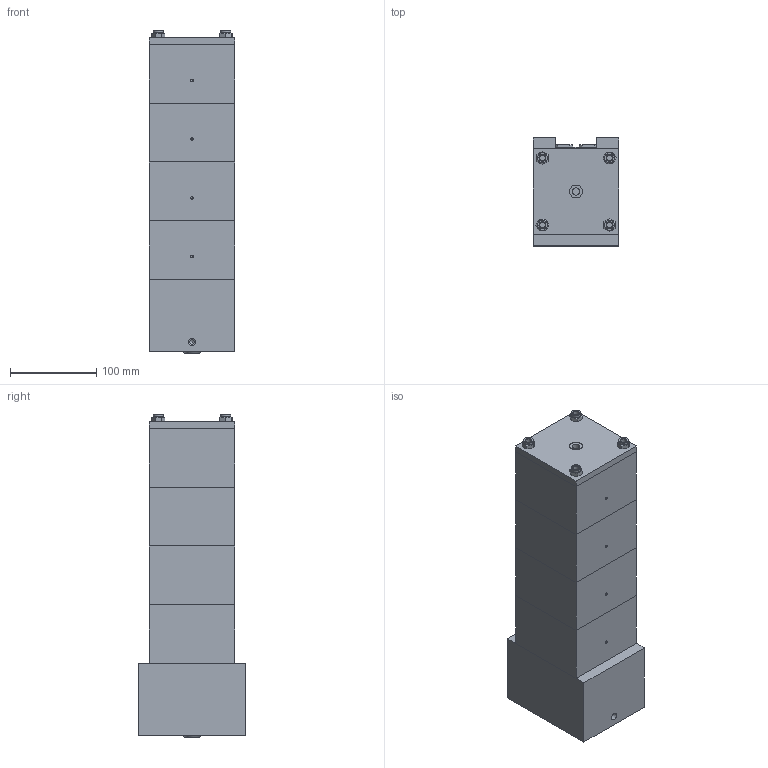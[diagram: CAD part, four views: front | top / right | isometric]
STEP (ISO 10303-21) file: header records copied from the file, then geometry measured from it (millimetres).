
FILE_DESCRIPTION((''),'2;1');
FILE_NAME('C:\VaultWork\Zeichnungen\Maßblätter\Multizylinder\M 90\M90-50\MZ01514-3-0 Maßblatt Multizylinder M90-5-50 berührungslose Abfrage.stp','2012-10-19T12:37:32',('Sergeew'),(''),'Autodesk Inventor 2012','Autodesk Inventor 2012','');
FILE_SCHEMA(('AUTOMOTIVE_DESIGN { 1 0 10303 214 1 1 1 1 }'));
Length unit declared in the file: millimetre
Products named in the file (1): MZ01514-3-0 Maßblatt Multizylinder M90-5-50 berührungslose Abfrage
Bounding box: 99 x 125 x 373.5 mm (x, y, z)
Volume: 3651614.6 mm3; surface area: 218291.5 mm2
Topology: 1 solids, 1 shells, 200 faces, 483 edges, 305 vertices
Faces by surface type: plane 124, cylinder 49, cone 26, torus 1
Full cylindrical faces by diameter (mm): 3 x4, 4.3 x4, 5 x1, 6.647 x9, 8.566 x2, 9 x4, 10 x16, 11.6 x4, 15 x1
Entity records: 5224 total; most frequent: CARTESIAN_POINT 955, DIRECTION 848, ORIENTED_EDGE 764, EDGE_CURVE 382, AXIS2_PLACEMENT_3D 313, EDGE_LOOP 300, VERTEX_POINT 276, VECTOR 222
